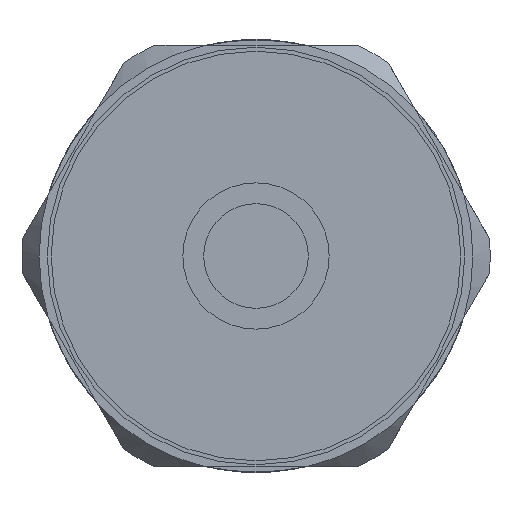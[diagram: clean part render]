
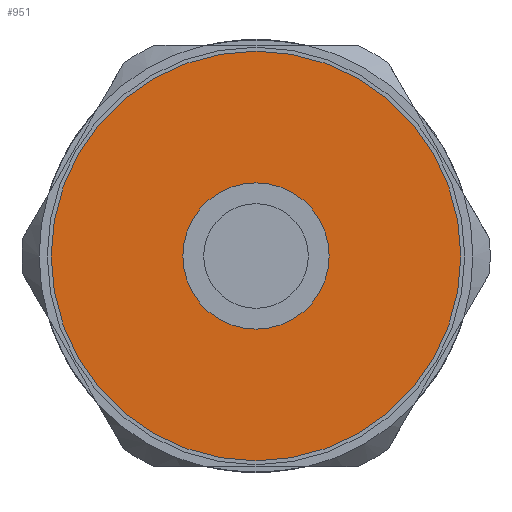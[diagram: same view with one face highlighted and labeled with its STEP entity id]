
A CAD part, left-side view. The second image highlights one B-rep face of the part: STEP entity #951.
In plain terms, the highlighted planar face has unit normal (-1, 0, 0).
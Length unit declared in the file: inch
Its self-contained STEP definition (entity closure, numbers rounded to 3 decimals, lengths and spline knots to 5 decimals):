
#54=FACE_BOUND('',#176,.T.);
#76=PLANE('',#1079);
#120=FACE_OUTER_BOUND('',#175,.T.);
#175=EDGE_LOOP('',(#787,#788));
#176=EDGE_LOOP('',(#789,#790));
#295=CIRCLE('',#1024,0.14764);
#296=CIRCLE('',#1025,0.14764);
#325=CIRCLE('',#1080,0.41339);
#326=CIRCLE('',#1081,0.41339);
#367=VERTEX_POINT('',#1468);
#368=VERTEX_POINT('',#1469);
#421=VERTEX_POINT('',#1677);
#422=VERTEX_POINT('',#1678);
#470=EDGE_CURVE('',#367,#368,#295,.T.);
#471=EDGE_CURVE('',#368,#367,#296,.T.);
#551=EDGE_CURVE('',#421,#422,#325,.T.);
#552=EDGE_CURVE('',#422,#421,#326,.T.);
#787=ORIENTED_EDGE('',*,*,#551,.T.);
#788=ORIENTED_EDGE('',*,*,#552,.T.);
#789=ORIENTED_EDGE('',*,*,#470,.T.);
#790=ORIENTED_EDGE('',*,*,#471,.T.);
#951=ADVANCED_FACE('',(#120,#54),#76,.T.);
#1024=AXIS2_PLACEMENT_3D('',#1470,#1196,#1197);
#1025=AXIS2_PLACEMENT_3D('',#1471,#1198,#1199);
#1079=AXIS2_PLACEMENT_3D('',#1676,#1333,#1334);
#1080=AXIS2_PLACEMENT_3D('',#1679,#1335,#1336);
#1081=AXIS2_PLACEMENT_3D('',#1680,#1337,#1338);
#1196=DIRECTION('center_axis',(1.,0.,0.));
#1197=DIRECTION('ref_axis',(0.,0.866,-0.5));
#1198=DIRECTION('center_axis',(1.,0.,0.));
#1199=DIRECTION('ref_axis',(0.,0.866,-0.5));
#1333=DIRECTION('center_axis',(-1.,0.,0.));
#1334=DIRECTION('ref_axis',(0.,0.866,-0.5));
#1335=DIRECTION('center_axis',(-1.,0.,0.));
#1336=DIRECTION('ref_axis',(0.,0.866,-0.5));
#1337=DIRECTION('center_axis',(-1.,0.,0.));
#1338=DIRECTION('ref_axis',(0.,0.866,-0.5));
#1468=CARTESIAN_POINT('',(-2.25408,0.22916,-0.41816));
#1469=CARTESIAN_POINT('',(-2.25408,-0.02656,-0.27052));
#1470=CARTESIAN_POINT('Origin',(-2.25408,0.1013,-0.34434));
#1471=CARTESIAN_POINT('Origin',(-2.25408,0.1013,-0.34434));
#1676=CARTESIAN_POINT('Origin',(-2.25408,0.1013,-0.34434));
#1677=CARTESIAN_POINT('',(-2.25408,0.4593,-0.55103));
#1678=CARTESIAN_POINT('',(-2.25408,-0.2567,-0.13765));
#1679=CARTESIAN_POINT('Origin',(-2.25408,0.1013,-0.34434));
#1680=CARTESIAN_POINT('Origin',(-2.25408,0.1013,-0.34434));
